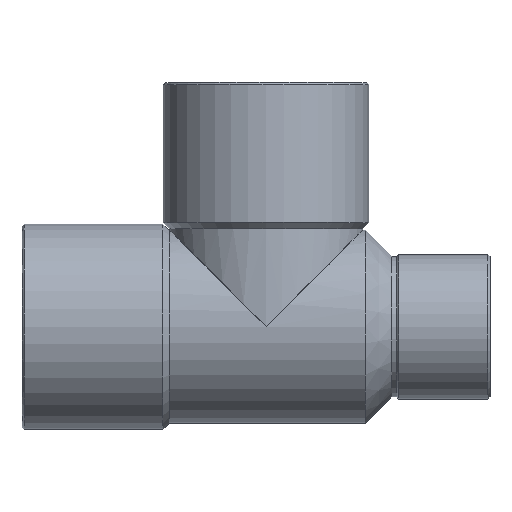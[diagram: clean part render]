
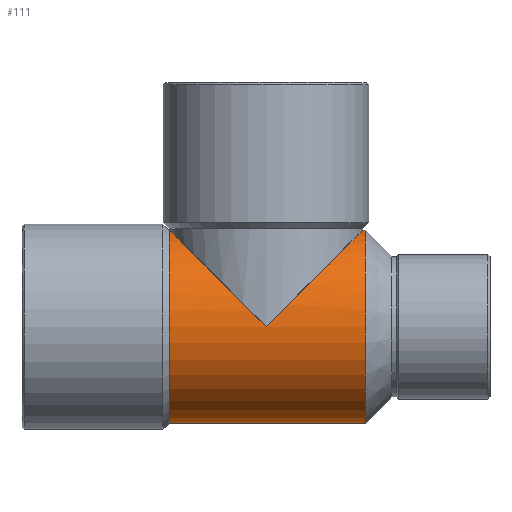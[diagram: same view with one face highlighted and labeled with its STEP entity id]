
A CAD part, top view. The second image highlights one B-rep face of the part: STEP entity #111.
In plain terms, the highlighted cylindrical face has radius 9.5 mm (diameter 19 mm), a partial arc.
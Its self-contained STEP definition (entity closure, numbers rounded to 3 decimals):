
#44=CARTESIAN_POINT('',(-1.,0.,0.0));
#45=DIRECTION('',(1.0,0.,0.0));
#46=DIRECTION('',(0.0,1.0,0.0));
#47=AXIS2_PLACEMENT_3D('',#44,#45,#46);
#48=CYLINDRICAL_SURFACE('',#47,9.5);
#49=CARTESIAN_POINT('',(-9.543,9.5,0.));
#50=VERTEX_POINT('',#49);
#51=CARTESIAN_POINT('',(-9.53,9.5,0.));
#52=VERTEX_POINT('',#51);
#53=CARTESIAN_POINT('',(-9.543,9.5,0.));
#54=DIRECTION('',(1.0,0.,0.));
#55=VECTOR('',#54,0.013);
#56=LINE('',#53,#55);
#57=EDGE_CURVE('',#50,#52,#56,.T.);
#58=ORIENTED_EDGE('',*,*,#57,.F.);
#59=CARTESIAN_POINT('',(-9.543,-9.5,0.));
#60=VERTEX_POINT('',#59);
#61=CARTESIAN_POINT('',(-9.543,0.,0.0));
#62=DIRECTION('',(1.0,0.0,0.0));
#63=DIRECTION('',(0.0,1.0,0.0));
#64=AXIS2_PLACEMENT_3D('',#61,#62,#63);
#65=CIRCLE('',#64,9.5);
#66=EDGE_CURVE('',#50,#60,#65,.T.);
#67=ORIENTED_EDGE('',*,*,#66,.T.);
#68=CARTESIAN_POINT('',(9.751,-9.5,0.));
#69=VERTEX_POINT('',#68);
#70=CARTESIAN_POINT('',(9.751,-9.5,0.));
#71=DIRECTION('',(-1.0,0.0,0.0));
#72=VECTOR('',#71,19.294);
#73=LINE('',#70,#72);
#74=EDGE_CURVE('',#69,#60,#73,.T.);
#75=ORIENTED_EDGE('',*,*,#74,.F.);
#76=CARTESIAN_POINT('',(9.751,9.5,0.0));
#77=VERTEX_POINT('',#76);
#78=CARTESIAN_POINT('',(9.751,0.,0.0));
#79=DIRECTION('',(-1.0,0.0,0.0));
#80=DIRECTION('',(0.0,1.0,0.0));
#81=AXIS2_PLACEMENT_3D('',#78,#79,#80);
#82=CIRCLE('',#81,9.5);
#83=EDGE_CURVE('',#69,#77,#82,.T.);
#84=ORIENTED_EDGE('',*,*,#83,.T.);
#85=CARTESIAN_POINT('',(9.53,9.5,0.));
#86=VERTEX_POINT('',#85);
#87=CARTESIAN_POINT('',(9.53,9.5,0.));
#88=DIRECTION('',(1.0,0.0,0.0));
#89=VECTOR('',#88,0.221);
#90=LINE('',#87,#89);
#91=EDGE_CURVE('',#86,#77,#90,.T.);
#92=ORIENTED_EDGE('',*,*,#91,.F.);
#93=CARTESIAN_POINT('',(0.,0.,9.5));
#94=VERTEX_POINT('',#93);
#95=CARTESIAN_POINT('',(0.,0.,0.0));
#96=DIRECTION('',(-0.706,0.708,0.));
#97=DIRECTION('',(0.708,0.706,0.0));
#98=AXIS2_PLACEMENT_3D('',#95,#96,#97);
#99=ELLIPSE('',#98,13.456,9.5);
#100=EDGE_CURVE('',#94,#86,#99,.T.);
#101=ORIENTED_EDGE('',*,*,#100,.F.);
#102=CARTESIAN_POINT('',(0.,0.,0.0));
#103=DIRECTION('',(0.706,0.708,0.));
#104=DIRECTION('',(-0.708,0.706,0.0));
#105=AXIS2_PLACEMENT_3D('',#102,#103,#104);
#106=ELLIPSE('',#105,13.456,9.5);
#107=EDGE_CURVE('',#52,#94,#106,.T.);
#108=ORIENTED_EDGE('',*,*,#107,.F.);
#109=EDGE_LOOP('',(#58,#67,#75,#84,#92,#101,#108));
#110=FACE_OUTER_BOUND('',#109,.T.);
#111=ADVANCED_FACE('',(#110),#48,.T.);
